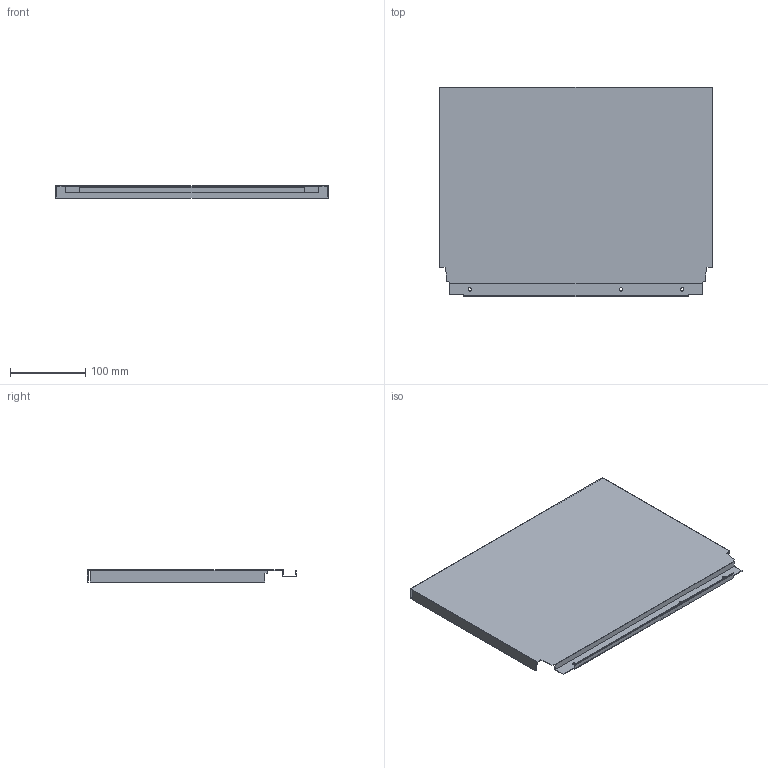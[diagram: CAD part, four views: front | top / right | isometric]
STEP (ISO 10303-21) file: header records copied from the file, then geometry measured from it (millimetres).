
FILE_DESCRIPTION (( 'STEP AP214' ), '1' );
FILE_NAME ('_DWD_XP Stahlrückwand_H278_KAB450_S18.step', '2010-07-08T13:03:55', ( 'grass' ), ( '' ), 'SwSTEP 2.0', 'SolidWorks 2010', '' );
FILE_SCHEMA (( 'AUTOMOTIVE_DESIGN' ));
Length unit declared in the file: millimetre
Products named in the file (1): _DWD_XP Stahlrückwand_H278_KAB450_S18
Bounding box: 363 x 278.57 x 16 mm (x, y, z)
Volume: 103396.4 mm3; surface area: 236229.3 mm2
Topology: 1 solids, 1 shells, 46 faces, 132 edges, 88 vertices
Faces by surface type: plane 40, cylinder 6
Entity records: 1534 total; most frequent: CARTESIAN_POINT 267, ORIENTED_EDGE 264, DIRECTION 238, EDGE_CURVE 132, VECTOR 120, LINE 120, VERTEX_POINT 88, AXIS2_PLACEMENT_3D 59
